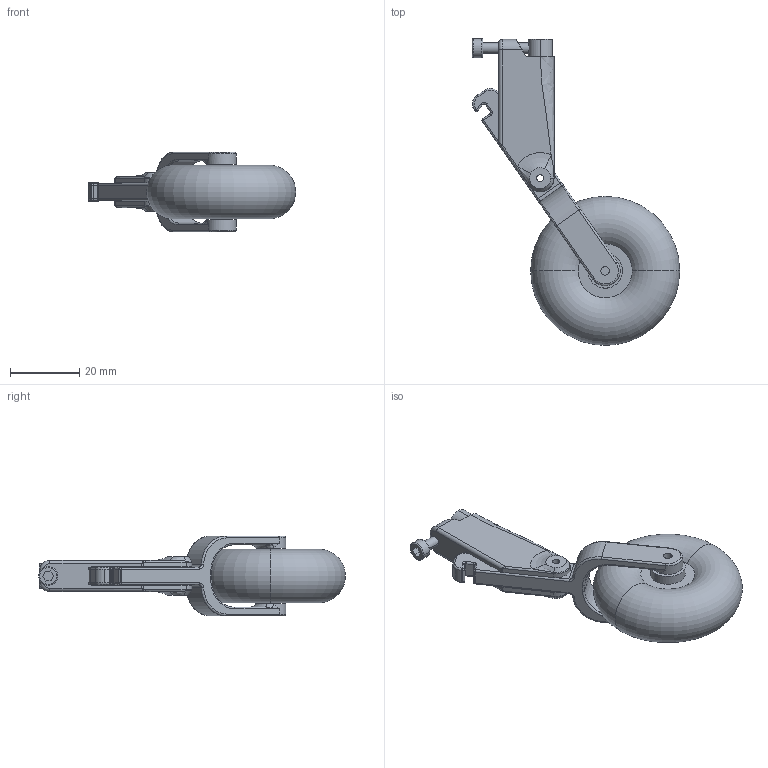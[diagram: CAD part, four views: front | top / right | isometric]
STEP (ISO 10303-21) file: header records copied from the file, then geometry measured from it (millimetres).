
FILE_DESCRIPTION (( 'STEP AP214' ), '1' );
FILE_NAME ('TrainAtterissageMarlin.STEP', '2026-05-04T19:23:44', ( '' ), ( '' ), 'SwSTEP 2.0', 'SolidWorks 2010', '' );
FILE_SCHEMA (( 'AUTOMOTIVE_DESIGN' ));
Length unit declared in the file: millimetre
Products named in the file (1): TrainAtterissageMarlin
Bounding box: 59.86 x 88.54 x 23 mm (x, y, z)
Volume: 25664.8 mm3; surface area: 10024.2 mm2
Topology: 4 solids, 4 shells, 191 faces, 453 edges, 266 vertices
Faces by surface type: cylinder 77, plane 46, torus 40, bspline 24, sphere 4
Entity records: 7255 total; most frequent: CARTESIAN_POINT 2764, DIRECTION 945, ORIENTED_EDGE 886, EDGE_CURVE 443, AXIS2_PLACEMENT_3D 392, VERTEX_POINT 264, CIRCLE 224, EDGE_LOOP 211
